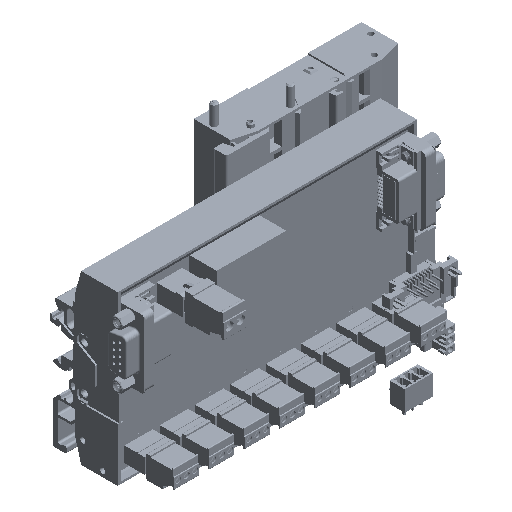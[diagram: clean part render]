
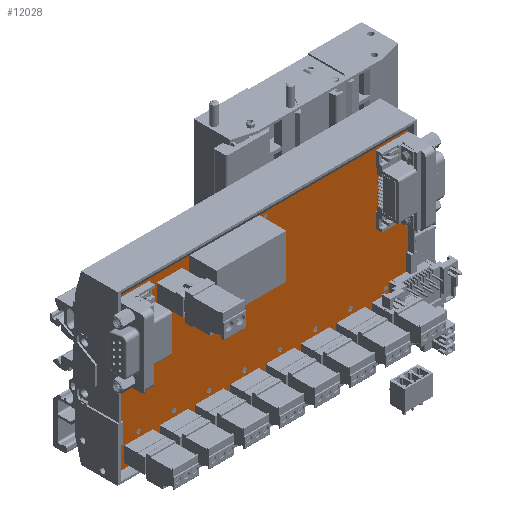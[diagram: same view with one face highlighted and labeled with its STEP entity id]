
A CAD part, isometric view. The second image highlights one B-rep face of the part: STEP entity #12028.
In plain terms, the highlighted planar face has unit normal (0, -1, 0).
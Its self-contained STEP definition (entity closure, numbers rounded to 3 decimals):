
#12028 = ADVANCED_FACE( '', ( #29936, #29937, #29938, #29939, #29940, #29941, #29942, #29943, #29944, #29945 ), #29946, .F. );
#29936 = FACE_OUTER_BOUND( '', #77168, .T. );
#29937 = FACE_BOUND( '', #77169, .T. );
#29938 = FACE_BOUND( '', #77170, .T. );
#29939 = FACE_BOUND( '', #77171, .T. );
#29940 = FACE_BOUND( '', #77172, .T. );
#29941 = FACE_BOUND( '', #77173, .T. );
#29942 = FACE_BOUND( '', #77174, .T. );
#29943 = FACE_BOUND( '', #77175, .T. );
#29944 = FACE_BOUND( '', #77176, .T. );
#29945 = FACE_BOUND( '', #77177, .T. );
#29946 = PLANE( '', #77178 );
#77168 = EDGE_LOOP( '', ( #172998, #172999, #173000, #173001 ) );
#77169 = EDGE_LOOP( '', ( #173002 ) );
#77170 = EDGE_LOOP( '', ( #173003 ) );
#77171 = EDGE_LOOP( '', ( #173004 ) );
#77172 = EDGE_LOOP( '', ( #173005 ) );
#77173 = EDGE_LOOP( '', ( #173006 ) );
#77174 = EDGE_LOOP( '', ( #173007 ) );
#77175 = EDGE_LOOP( '', ( #173008 ) );
#77176 = EDGE_LOOP( '', ( #173009 ) );
#77177 = EDGE_LOOP( '', ( #173010 ) );
#77178 = AXIS2_PLACEMENT_3D( '', #173011, #173012, #173013 );
#172998 = ORIENTED_EDGE( '', *, *, #210762, .T. );
#172999 = ORIENTED_EDGE( '', *, *, #212882, .F. );
#173000 = ORIENTED_EDGE( '', *, *, #212883, .F. );
#173001 = ORIENTED_EDGE( '', *, *, #212884, .T. );
#173002 = ORIENTED_EDGE( '', *, *, #212885, .T. );
#173003 = ORIENTED_EDGE( '', *, *, #212886, .T. );
#173004 = ORIENTED_EDGE( '', *, *, #208906, .T. );
#173005 = ORIENTED_EDGE( '', *, *, #212887, .T. );
#173006 = ORIENTED_EDGE( '', *, *, #212888, .T. );
#173007 = ORIENTED_EDGE( '', *, *, #209491, .T. );
#173008 = ORIENTED_EDGE( '', *, *, #212889, .T. );
#173009 = ORIENTED_EDGE( '', *, *, #212890, .T. );
#173010 = ORIENTED_EDGE( '', *, *, #212891, .T. );
#173011 = CARTESIAN_POINT( '', ( -132.3, 0., 0. ) );
#173012 = DIRECTION( '', ( 0., 1., 0. ) );
#173013 = DIRECTION( '', ( 0., 0., 1. ) );
#208906 = EDGE_CURVE( '', #226441, #226441, #226442, .T. );
#209491 = EDGE_CURVE( '', #227437, #227437, #227438, .T. );
#210762 = EDGE_CURVE( '', #229546, #229550, #229552, .T. );
#212882 = EDGE_CURVE( '', #232899, #229550, #232900, .T. );
#212883 = EDGE_CURVE( '', #232901, #232899, #232902, .T. );
#212884 = EDGE_CURVE( '', #232901, #229546, #232903, .T. );
#212885 = EDGE_CURVE( '', #232904, #232904, #232905, .T. );
#212886 = EDGE_CURVE( '', #232906, #232906, #232907, .T. );
#212887 = EDGE_CURVE( '', #232908, #232908, #232909, .T. );
#212888 = EDGE_CURVE( '', #232910, #232910, #232911, .T. );
#212889 = EDGE_CURVE( '', #232912, #232912, #232913, .T. );
#212890 = EDGE_CURVE( '', #232914, #232914, #232915, .T. );
#212891 = EDGE_CURVE( '', #232916, #232916, #232917, .T. );
#226441 = VERTEX_POINT( '', #256453 );
#226442 = CIRCLE( '', #256454, 1. );
#227437 = VERTEX_POINT( '', #259000 );
#227438 = CIRCLE( '', #259001, 1. );
#229546 = VERTEX_POINT( '', #264174 );
#229550 = VERTEX_POINT( '', #264180 );
#229552 = LINE( '', #264183, #264184 );
#232899 = VERTEX_POINT( '', #272858 );
#232900 = LINE( '', #272859, #272860 );
#232901 = VERTEX_POINT( '', #272861 );
#232902 = LINE( '', #272862, #272863 );
#232903 = LINE( '', #272864, #272865 );
#232904 = VERTEX_POINT( '', #272866 );
#232905 = CIRCLE( '', #272867, 1. );
#232906 = VERTEX_POINT( '', #272868 );
#232907 = CIRCLE( '', #272869, 1. );
#232908 = VERTEX_POINT( '', #272870 );
#232909 = CIRCLE( '', #272871, 1. );
#232910 = VERTEX_POINT( '', #272872 );
#232911 = CIRCLE( '', #272873, 1. );
#232912 = VERTEX_POINT( '', #272874 );
#232913 = CIRCLE( '', #272875, 1. );
#232914 = VERTEX_POINT( '', #272876 );
#232915 = CIRCLE( '', #272877, 1. );
#232916 = VERTEX_POINT( '', #272878 );
#232917 = CIRCLE( '', #272879, 1. );
#256453 = CARTESIAN_POINT( '', ( -90.15, 0., 11.5 ) );
#256454 = AXIS2_PLACEMENT_3D( '', #311282, #311283, #311284 );
#259000 = CARTESIAN_POINT( '', ( -42.15, 0., 11.5 ) );
#259001 = AXIS2_PLACEMENT_3D( '', #311778, #311779, #311780 );
#264174 = CARTESIAN_POINT( '', ( 0., 0., 0. ) );
#264180 = CARTESIAN_POINT( '', ( 0., 0., 72. ) );
#264183 = CARTESIAN_POINT( '', ( 0., 0., 0. ) );
#264184 = VECTOR( '', #312883, 1000. );
#272858 = CARTESIAN_POINT( '', ( -132.3, 0., 72. ) );
#272859 = CARTESIAN_POINT( '', ( -132.3, 0., 72. ) );
#272860 = VECTOR( '', #314482, 1000. );
#272861 = CARTESIAN_POINT( '', ( -132.3, 0., 0. ) );
#272862 = CARTESIAN_POINT( '', ( -132.3, 0., 0. ) );
#272863 = VECTOR( '', #314483, 1000. );
#272864 = CARTESIAN_POINT( '', ( -132.3, 0., 0. ) );
#272865 = VECTOR( '', #314484, 1000. );
#272866 = CARTESIAN_POINT( '', ( -122.15, 0., 11.5 ) );
#272867 = AXIS2_PLACEMENT_3D( '', #314485, #314486, #314487 );
#272868 = CARTESIAN_POINT( '', ( -106.15, 0., 11.5 ) );
#272869 = AXIS2_PLACEMENT_3D( '', #314488, #314489, #314490 );
#272870 = CARTESIAN_POINT( '', ( -74.15, 0., 11.5 ) );
#272871 = AXIS2_PLACEMENT_3D( '', #314491, #314492, #314493 );
#272872 = CARTESIAN_POINT( '', ( -58.15, 0., 11.5 ) );
#272873 = AXIS2_PLACEMENT_3D( '', #314494, #314495, #314496 );
#272874 = CARTESIAN_POINT( '', ( -26.15, 0., 11.5 ) );
#272875 = AXIS2_PLACEMENT_3D( '', #314497, #314498, #314499 );
#272876 = CARTESIAN_POINT( '', ( -10.15, 0., 11.5 ) );
#272877 = AXIS2_PLACEMENT_3D( '', #314500, #314501, #314502 );
#272878 = CARTESIAN_POINT( '', ( -63.946, 0., 67.819 ) );
#272879 = AXIS2_PLACEMENT_3D( '', #314503, #314504, #314505 );
#311282 = CARTESIAN_POINT( '', ( -90.15, 0., 12.5 ) );
#311283 = DIRECTION( '', ( 0., 1., 0. ) );
#311284 = DIRECTION( '', ( 0., 0., -1. ) );
#311778 = CARTESIAN_POINT( '', ( -42.15, 0., 12.5 ) );
#311779 = DIRECTION( '', ( 0., 1., 0. ) );
#311780 = DIRECTION( '', ( 0., 0., -1. ) );
#312883 = DIRECTION( '', ( 0., 0., 1. ) );
#314482 = DIRECTION( '', ( 1., 0., 0. ) );
#314483 = DIRECTION( '', ( 0., 0., 1. ) );
#314484 = DIRECTION( '', ( 1., 0., 0. ) );
#314485 = CARTESIAN_POINT( '', ( -122.15, 0., 12.5 ) );
#314486 = DIRECTION( '', ( 0., 1., 0. ) );
#314487 = DIRECTION( '', ( 0., 0., -1. ) );
#314488 = CARTESIAN_POINT( '', ( -106.15, 0., 12.5 ) );
#314489 = DIRECTION( '', ( 0., 1., 0. ) );
#314490 = DIRECTION( '', ( 0., 0., -1. ) );
#314491 = CARTESIAN_POINT( '', ( -74.15, 0., 12.5 ) );
#314492 = DIRECTION( '', ( 0., 1., 0. ) );
#314493 = DIRECTION( '', ( 0., 0., -1. ) );
#314494 = CARTESIAN_POINT( '', ( -58.15, 0., 12.5 ) );
#314495 = DIRECTION( '', ( 0., 1., 0. ) );
#314496 = DIRECTION( '', ( 0., 0., -1. ) );
#314497 = CARTESIAN_POINT( '', ( -26.15, 0., 12.5 ) );
#314498 = DIRECTION( '', ( 0., 1., 0. ) );
#314499 = DIRECTION( '', ( 0., 0., -1. ) );
#314500 = CARTESIAN_POINT( '', ( -10.15, 0., 12.5 ) );
#314501 = DIRECTION( '', ( 0., 1., 0. ) );
#314502 = DIRECTION( '', ( 0., 0., -1. ) );
#314503 = CARTESIAN_POINT( '', ( -64.946, 0., 67.819 ) );
#314504 = DIRECTION( '', ( 0., 1., 0. ) );
#314505 = DIRECTION( '', ( 1., 0., 0. ) );
